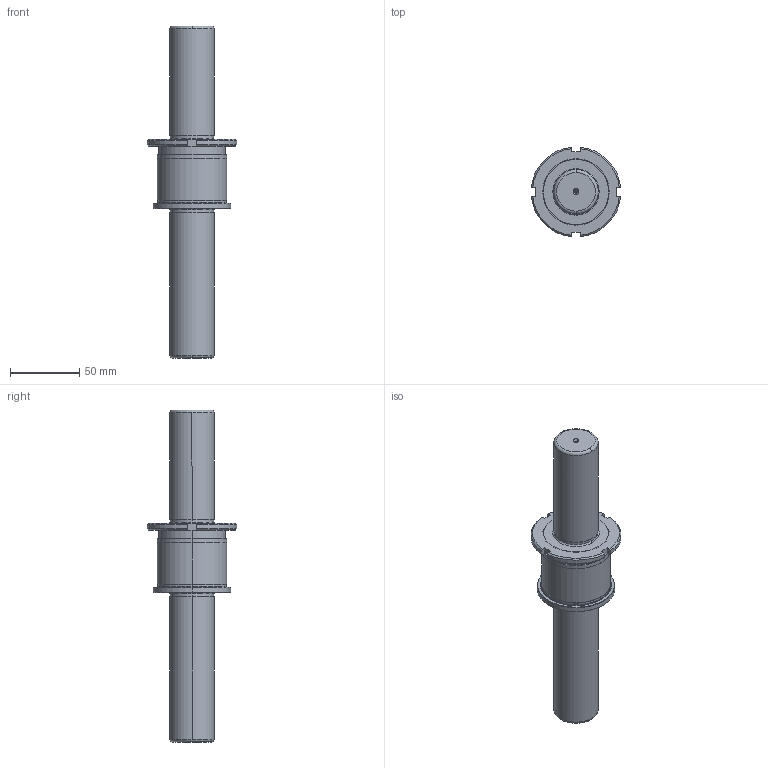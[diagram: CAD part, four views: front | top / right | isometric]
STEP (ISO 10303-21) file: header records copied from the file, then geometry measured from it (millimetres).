
FILE_DESCRIPTION((''),'2;1');
FILE_NAME('CMF_032_240.stp','2008-11-04T11:13:19',(''),(''),'Mechanical Desktop 2009','Mechanical Desktop 2009',', , ');
FILE_SCHEMA(('CONFIG_CONTROL_DESIGN'));
Length unit declared in the file: millimetre
Products named in the file (2): Product; blmdl1
Assembly tree (1 placements, depth 2):
  Product
    blmdl1
Bounding box: 64.72 x 64.72 x 240 mm (x, y, z)
Volume: 257307.9 mm3; surface area: 36847.3 mm2
Topology: 2 solids, 2 shells, 92 faces, 223 edges, 141 vertices
Faces by surface type: cylinder 30, cone 28, plane 24, bspline 6, torus 4
Entity records: 3035 total; most frequent: CARTESIAN_POINT 750, DIRECTION 496, ORIENTED_EDGE 438, EDGE_CURVE 219, AXIS2_PLACEMENT_3D 205, VERTEX_POINT 141, CIRCLE 117, EDGE_LOOP 104
